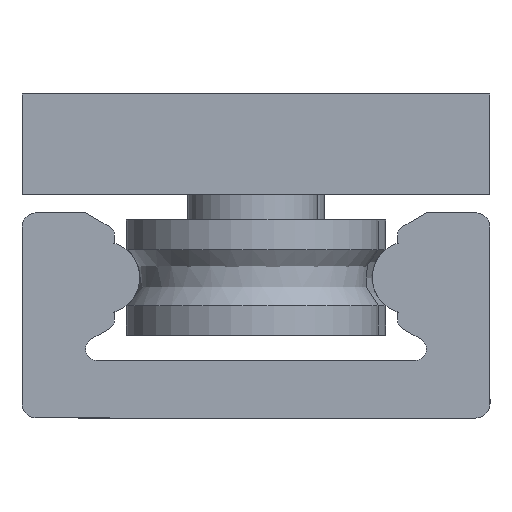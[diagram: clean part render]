
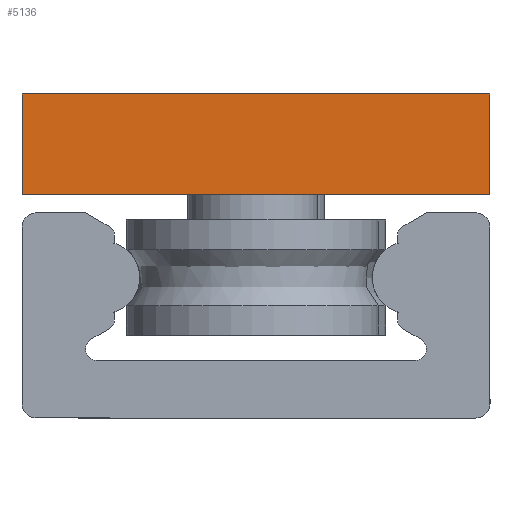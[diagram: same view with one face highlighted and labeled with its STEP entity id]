
A CAD part, left-side view. The second image highlights one B-rep face of the part: STEP entity #5136.
In plain terms, the highlighted planar face has unit normal (-1, 0, 0).
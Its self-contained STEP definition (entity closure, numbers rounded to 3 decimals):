
#4956=CARTESIAN_POINT('',(0.0,-32.5,25.5));
#4957=VERTEX_POINT('',#4956);
#4964=CARTESIAN_POINT('',(0.0,-32.5,11.5));
#4965=VERTEX_POINT('',#4964);
#4966=CARTESIAN_POINT('',(0.0,-32.5,25.5));
#4967=DIRECTION('',(0.0,0.0,-1.0));
#4968=VECTOR('',#4967,14.);
#4969=LINE('',#4966,#4968);
#4970=EDGE_CURVE('',#4957,#4965,#4969,.T.);
#4994=CARTESIAN_POINT('',(0.0,32.5,25.5));
#4995=VERTEX_POINT('',#4994);
#5002=CARTESIAN_POINT('',(0.0,32.5,25.5));
#5003=DIRECTION('',(0.0,-1.0,0.0));
#5004=VECTOR('',#5003,65.);
#5005=LINE('',#5002,#5004);
#5006=EDGE_CURVE('',#4995,#4957,#5005,.T.);
#5055=CARTESIAN_POINT('',(0.0,32.5,11.5));
#5056=VERTEX_POINT('',#5055);
#5063=CARTESIAN_POINT('',(0.0,32.5,11.5));
#5064=DIRECTION('',(0.0,0.0,1.0));
#5065=VECTOR('',#5064,14.);
#5066=LINE('',#5063,#5065);
#5067=EDGE_CURVE('',#5056,#4995,#5066,.T.);
#5085=CARTESIAN_POINT('',(0.0,-32.5,11.5));
#5086=DIRECTION('',(0.0,1.0,0.0));
#5087=VECTOR('',#5086,65.0);
#5088=LINE('',#5085,#5087);
#5089=EDGE_CURVE('',#4965,#5056,#5088,.T.);
#5125=CARTESIAN_POINT('',(0.0,0.,18.5));
#5126=DIRECTION('',(1.0,0.0,0.0));
#5127=DIRECTION('',(0.0,0.0,-1.0));
#5128=AXIS2_PLACEMENT_3D('',#5125,#5126,#5127);
#5129=PLANE('',#5128);
#5130=ORIENTED_EDGE('',*,*,#5089,.F.);
#5131=ORIENTED_EDGE('',*,*,#4970,.F.);
#5132=ORIENTED_EDGE('',*,*,#5006,.F.);
#5133=ORIENTED_EDGE('',*,*,#5067,.F.);
#5134=EDGE_LOOP('',(#5130,#5131,#5132,#5133));
#5135=FACE_OUTER_BOUND('',#5134,.T.);
#5136=ADVANCED_FACE('',(#5135),#5129,.F.);
